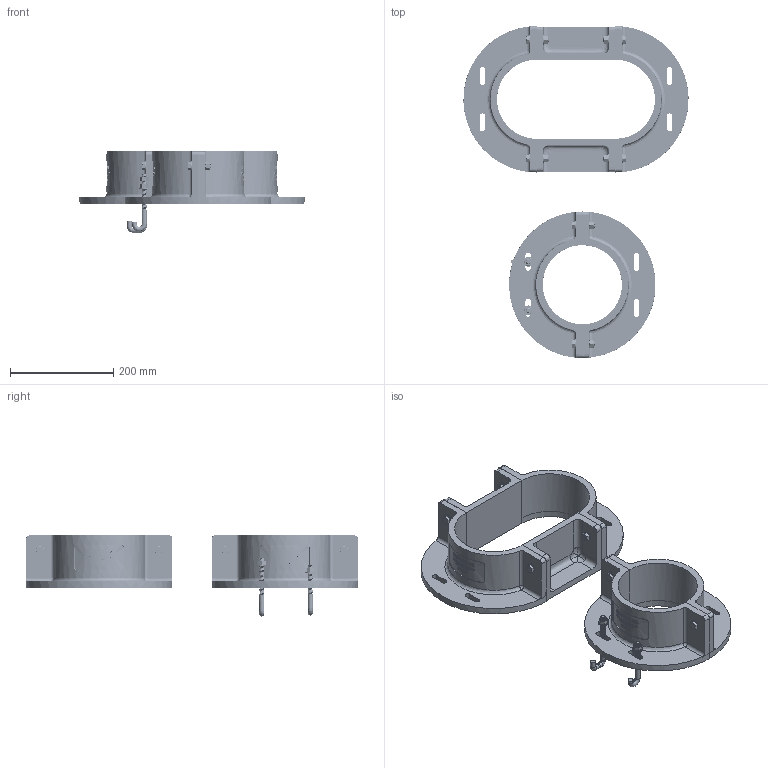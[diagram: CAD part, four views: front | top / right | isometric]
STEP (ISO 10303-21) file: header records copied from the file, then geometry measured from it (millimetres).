
FILE_DESCRIPTION(/* description */ (''),/* implementation_level */ '2;1');
FILE_NAME(/* name */ 'GPC-6 and X with Hardware',/* time_stamp */ '2022-10-25T17:36:51-05:00',/* author */ (''),/* organization */ (''),/* preprocessor_version */ 'ST-DEVELOPER v16.5',/* originating_system */ 'Rhino 7.22',/* authorisation */ '');
FILE_SCHEMA (('AUTOMOTIVE_DESIGN_CC2'));
Products named in the file (4): Document; 92198A628_18-8 Stainless Steel Hex Head Screw; 90107A127_316 Stainless Steel Washer; 91845A031_18-8 Stainless Steel Hex Nut
Assembly tree (12 placements, depth 2):
  Document
    92198A628_18-8 Stainless Steel Hex Head Screw  x3
    90107A127_316 Stainless Steel Washer  x6
    91845A031_18-8 Stainless Steel Hex Nut  x3
Bounding box: 435.58 x 642.34 x 157.04 mm (x, y, z)
Volume: 876846.7 mm3; surface area: 673098.4 mm2
Topology: 32 solids, 36 shells, 3865 faces, 10001 edges, 6574 vertices
Faces by surface type: plane 1643, cylinder 1124, bspline 1098
Entity records: 212064 total; most frequent: CARTESIAN_POINT 149951, ORIENTED_EDGE 18818, EDGE_CURVE 9421, B_SPLINE_CURVE_WITH_KNOTS 6956, VERTEX_POINT 6204, EDGE_LOOP 4077, ADVANCED_FACE 3635, FACE_OUTER_BOUND 3635
